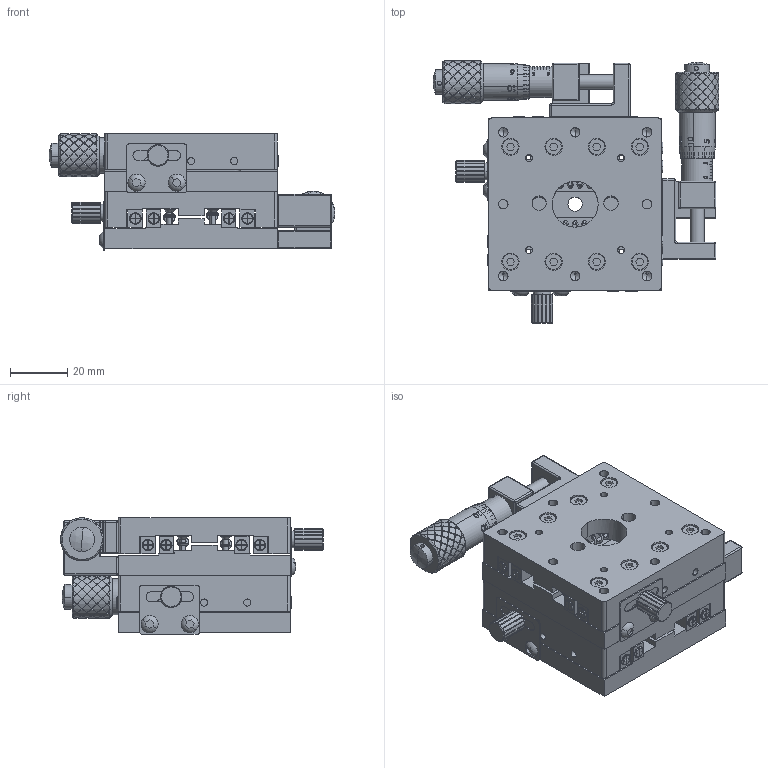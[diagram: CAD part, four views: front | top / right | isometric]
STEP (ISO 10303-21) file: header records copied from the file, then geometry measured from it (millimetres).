
FILE_DESCRIPTION (( 'STEP AP203' ), '1' );
FILE_NAME ('TSJ60XY-05.STEP', '2014-08-29T00:43:42', ( '¦K¬P' ), ( '' ), 'SwSTEP 2.0', 'SolidWorks 2012', '' );
FILE_SCHEMA (( 'CONFIG_CONTROL_DESIGN' ));
Length unit declared in the file: millimetre
Products named in the file (20): TSJ60XY-05; TSJ60-05; TSJ60; ψ7.5X11.5L; 固定片-42; M2.5x0.45P; TSJ60､U1.SLDASM; ψ6X1L; 頂點座; 分離卡座1; TSJ60､U; TSJ60､W; M3圓頭; M3x0.5P; M2x0.4P皿頭5L; 50L; 分厘卡; 螺絲1; 後管1; 前管1
Assembly tree (46 placements, depth 4):
  TSJ60XY-05
    TSJ60-05  x2
      分厘卡
        前管1
        後管1
        螺絲1
      TSJ60
        50L  x2
        M2x0.4P皿頭5L  x4
        M3x0.5P  x16
        M3圓頭  x2
        TSJ60､W
        TSJ60､U
        分離卡座1
        頂點座
        ψ6X1L
        TSJ60､U1.SLDASM  x4
        M2.5x0.45P  x4
        固定片-42
        ψ7.5X11.5L
Bounding box: 99.4 x 91.5 x 40.5 mm (x, y, z)
Volume: 140333.2 mm3; surface area: 90290.4 mm2
Topology: 114 solids, 114 shells, 4112 faces, 10842 edges, 7028 vertices
Faces by surface type: plane 1940, cylinder 1088, bspline 818, cone 132, torus 80, sphere 54
Entity records: 90694 total; most frequent: CARTESIAN_POINT 51478, ORIENTED_EDGE 8594, DIRECTION 6270, EDGE_CURVE 4297, VERTEX_POINT 2808, AXIS2_PLACEMENT_3D 2281, EDGE_LOOP 1847, LINE 1708
